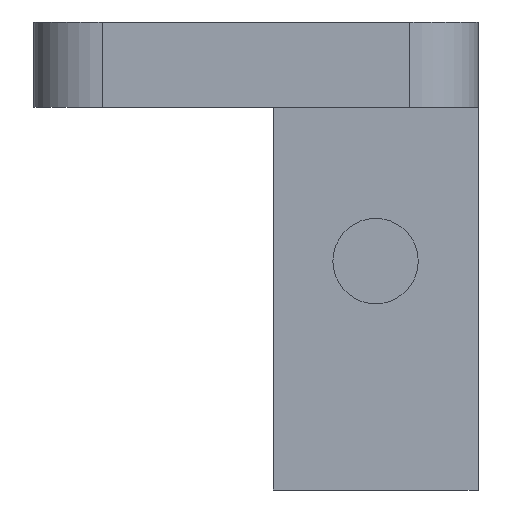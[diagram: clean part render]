
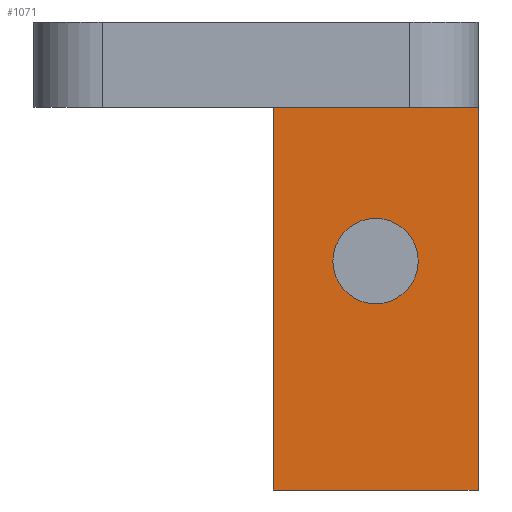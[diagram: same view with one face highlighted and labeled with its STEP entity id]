
A CAD part, front view. The second image highlights one B-rep face of the part: STEP entity #1071.
In plain terms, the highlighted planar face has unit normal (0, -1, 0).
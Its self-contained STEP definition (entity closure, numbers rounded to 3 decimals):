
#153 = VECTOR ( 'NONE', #171, 1000. ) ;
#155 = LINE ( 'NONE', #167, #166 ) ;
#160 = CARTESIAN_POINT ( 'NONE',  ( -3., -15.2, -3.7 ) ) ;
#161 = LINE ( 'NONE', #160, #153 ) ;
#165 = DIRECTION ( 'NONE',  ( 1., 0., 0. ) ) ;
#166 = VECTOR ( 'NONE', #165, 1000. ) ;
#167 = CARTESIAN_POINT ( 'NONE',  ( 3., -15.2, 7.5 ) ) ;
#169 = CARTESIAN_POINT ( 'NONE',  ( 3., -15.2, 7.5 ) ) ;
#171 = DIRECTION ( 'NONE',  ( 0., 0., -1. ) ) ;
#263 = DIRECTION ( 'NONE',  ( 0., 0., 1. ) ) ;
#264 = DIRECTION ( 'NONE',  ( 0., -1., 0. ) ) ;
#265 = CARTESIAN_POINT ( 'NONE',  ( 0., -15.2, 3. ) ) ;
#323 = AXIS2_PLACEMENT_3D ( 'NONE', #265, #264, #263 ) ;
#340 = CIRCLE ( 'NONE', #323, 1.25 ) ;
#350 = CARTESIAN_POINT ( 'NONE',  ( 0., -15.2, 1.75 ) ) ;
#366 = CARTESIAN_POINT ( 'NONE',  ( 0., -15.2, 4.25 ) ) ;
#597 = DIRECTION ( 'NONE',  ( 0., 0., 1. ) ) ;
#598 = DIRECTION ( 'NONE',  ( 0., -1., 0. ) ) ;
#604 = AXIS2_PLACEMENT_3D ( 'NONE', #642, #598, #597 ) ;
#642 = CARTESIAN_POINT ( 'NONE',  ( 0., -15.2, 3. ) ) ;
#643 = DIRECTION ( 'NONE',  ( 0., 0., -1. ) ) ;
#644 = VECTOR ( 'NONE', #643, 1000. ) ;
#647 = CARTESIAN_POINT ( 'NONE',  ( 3., -15.2, -3.7 ) ) ;
#648 = LINE ( 'NONE', #647, #644 ) ;
#649 = CIRCLE ( 'NONE', #604, 1.25 ) ;
#655 = DIRECTION ( 'NONE',  ( -1., 0., 0. ) ) ;
#656 = VECTOR ( 'NONE', #655, 1000. ) ;
#657 = CARTESIAN_POINT ( 'NONE',  ( 3., -15.2, -3.7 ) ) ;
#658 = LINE ( 'NONE', #657, #656 ) ;
#661 = CARTESIAN_POINT ( 'NONE',  ( 3., -15.2, -3.7 ) ) ;
#1067 = VERTEX_POINT ( 'NONE', #1686 ) ;
#1069 = EDGE_LOOP ( 'NONE', ( #1190, #1073 ) ) ;
#1071 = ADVANCED_FACE ( 'NONE', ( #1671, #1670 ), #1690, .F. ) ;
#1072 = VERTEX_POINT ( 'NONE', #1651 ) ;
#1073 = ORIENTED_EDGE ( 'NONE', *, *, #1211, .F. ) ;
#1079 = VERTEX_POINT ( 'NONE', #169 ) ;
#1080 = EDGE_CURVE ( 'NONE', #1072, #1079, #155, .T. ) ;
#1081 = EDGE_LOOP ( 'NONE', ( #1083, #1082, #1236, #1239 ) ) ;
#1082 = ORIENTED_EDGE ( 'NONE', *, *, #1084, .T. ) ;
#1083 = ORIENTED_EDGE ( 'NONE', *, *, #1080, .F. ) ;
#1084 = EDGE_CURVE ( 'NONE', #1072, #1067, #161, .T. ) ;
#1166 = DIRECTION ( 'NONE',  ( 0., 1., 0. ) ) ;
#1190 = ORIENTED_EDGE ( 'NONE', *, *, #1247, .F. ) ;
#1193 = VERTEX_POINT ( 'NONE', #366 ) ;
#1197 = VERTEX_POINT ( 'NONE', #350 ) ;
#1211 = EDGE_CURVE ( 'NONE', #1197, #1193, #340, .T. ) ;
#1232 = VERTEX_POINT ( 'NONE', #661 ) ;
#1233 = EDGE_CURVE ( 'NONE', #1232, #1067, #658, .T. ) ;
#1236 = ORIENTED_EDGE ( 'NONE', *, *, #1233, .F. ) ;
#1237 = EDGE_CURVE ( 'NONE', #1079, #1232, #648, .T. ) ;
#1239 = ORIENTED_EDGE ( 'NONE', *, *, #1237, .F. ) ;
#1247 = EDGE_CURVE ( 'NONE', #1193, #1197, #649, .T. ) ;
#1257 = DIRECTION ( 'NONE',  ( 0., 0., 1. ) ) ;
#1258 = CARTESIAN_POINT ( 'NONE',  ( 3., -15.2, -3.7 ) ) ;
#1651 = CARTESIAN_POINT ( 'NONE',  ( -3., -15.2, 7.5 ) ) ;
#1670 = FACE_OUTER_BOUND ( 'NONE', #1081, .T. ) ;
#1671 = FACE_BOUND ( 'NONE', #1069, .T. ) ;
#1674 = AXIS2_PLACEMENT_3D ( 'NONE', #1258, #1166, #1257 ) ;
#1686 = CARTESIAN_POINT ( 'NONE',  ( -3., -15.2, -3.7 ) ) ;
#1690 = PLANE ( 'NONE',  #1674 ) ;
